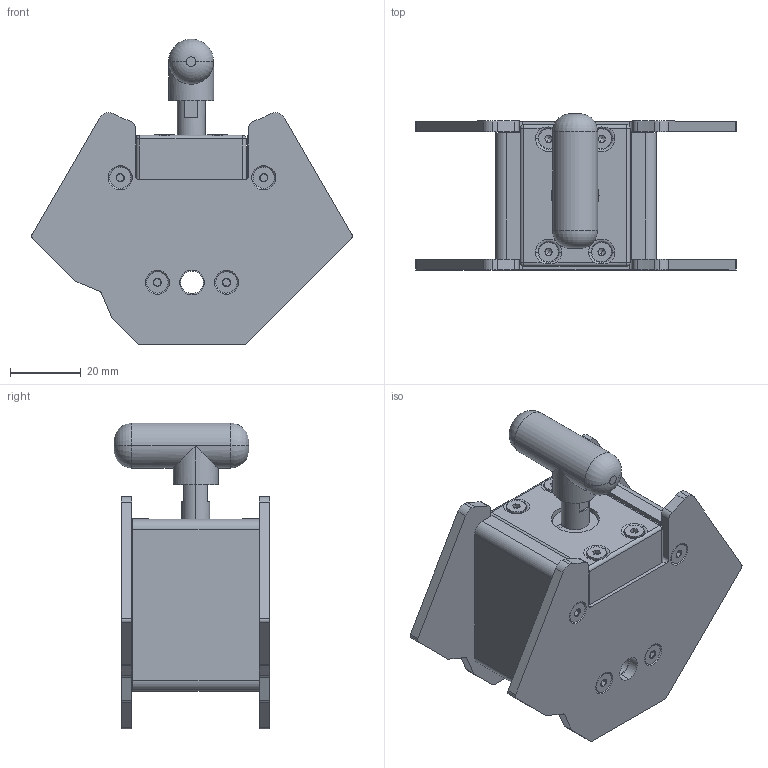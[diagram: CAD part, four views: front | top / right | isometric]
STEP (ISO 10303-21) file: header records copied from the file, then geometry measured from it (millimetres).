
FILE_DESCRIPTION (( 'STEP AP203' ), '1' );
FILE_NAME ('8000351_p.STEP', '2013-07-02T21:42:16', ( '' ), ( '' ), 'SwSTEP 2.0', 'SolidWorks 2010', '' );
FILE_SCHEMA (( 'CONFIG_CONTROL_DESIGN' ));
Length unit declared in the file: millimetre
Products named in the file (1): 8000351_p
Bounding box: 90.49 x 44 x 86.28 mm (x, y, z)
Surface area: 31865.3 mm2 (no closed solid volume)
Topology: 0 solids, 20 shells, 342 faces, 898 edges, 560 vertices
Faces by surface type: plane 145, cylinder 93, cone 88, torus 12, sphere 4
Entity records: 10688 total; most frequent: CARTESIAN_POINT 2189, DIRECTION 1875, ORIENTED_EDGE 1591, EDGE_CURVE 886, AXIS2_PLACEMENT_3D 718, VERTEX_POINT 560, VECTOR 439, LINE 439
